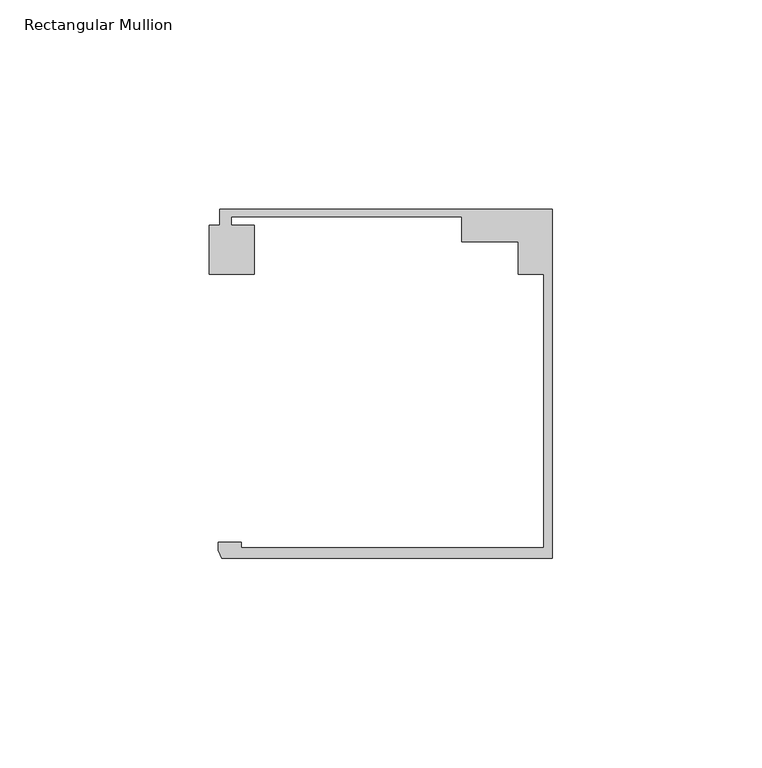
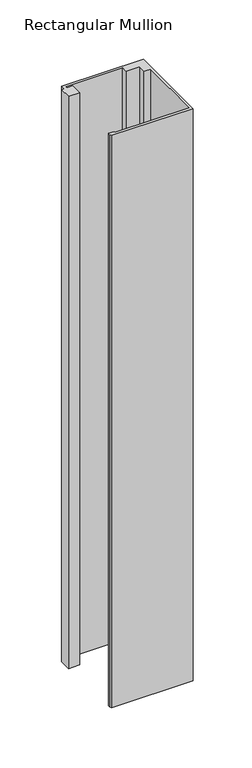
"""IFC4 building model written with IfcOpenShell, lengths in millimetres: member geometry, Rectangular Mullion : Danpal_Airpt_End-Mullion_B2."""

from ifc_helpers import new_model, si_unit, frame, origin, place, context, project, spatial, polyline, outline, extrude, source, transform, mapped, element, save


def rectangular_mullion_6eac9937(model_context):
    return source(origin(), model_context, "Body", "SweptSolid", [
        extrude(outline(polyline([(39.9953159, -74.9940824), (39.9953159, -9.7188964), (33.895316, -9.7188964), (33.895316, -1.8818054), (20.4474994, -1.8818054), (20.4474994, 4.0051512), (-34.6525006, 4.0051512), (-34.6525006, 2.0051513), (-29.1480372, 2.0051513), (-29.1480372, -9.6875514), (-39.8639164, -9.6875514), (-39.8639164, 2.0051513), (-37.3521714, 2.0051513), (-37.3521714, 5.8051514), (41.995316, 5.8051514), (41.995316, -77.4940825), (-36.8561849, -77.4940825), (-37.7831446, -75.5472671), (-37.7831446, -73.6940824), (-32.2521508, -73.6940824), (-32.2521508, -74.9940824), (39.9953159, -74.9940824)])), frame((0.0, 0.0, -588.004684), z_axis=(0.0, 0.0, 1.0), x_axis=(1.0, 0.0, 0.0)), (0.0, 0.0, 1.0), 588.004684),
    ])


if __name__ == "__main__":
    model = new_model("IFC4")
    model_context = context("Model", 3, world=origin())
    ifc_project = project(units=[si_unit("LENGTHUNIT", "METRE", prefix="MILLI")], contexts=[model_context])
    site = spatial("IfcSite", under=ifc_project)
    building = spatial("IfcBuilding", under=site)
    placement = place(None, origin())
    rectangular_mullion_shape = rectangular_mullion_6eac9937(model_context)
    element("IfcMember", 1, ObjectType="Rectangular Mullion : Danpal_Airpt_End-Mullion_B2", at=placement, inside=building, context=model_context, shape_type="MappedRepresentation", body=[
        mapped(rectangular_mullion_shape, transform((0.0, 0.0, 0.0), x_axis=(1.0, 0.0, 0.0), y_axis=(0.0, 1.0, 0.0), z_axis=(0.0, 0.0, 1.0))),
    ])
    save(model, "model.ifc")
